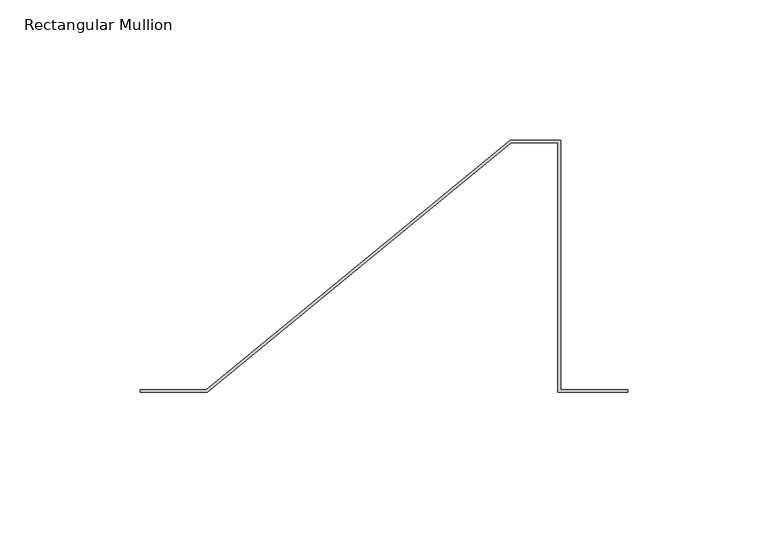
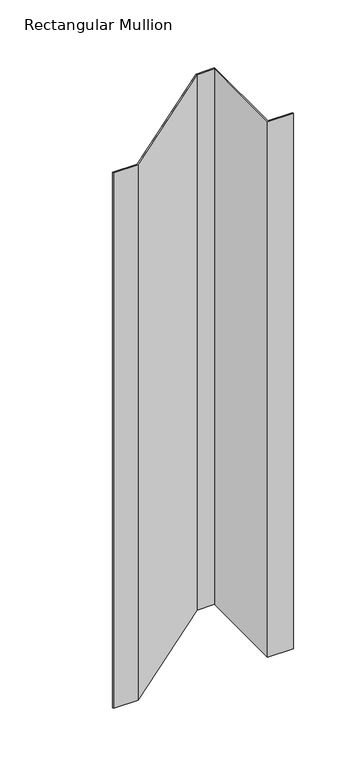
"""IFC4 building model written with IfcOpenShell, lengths in millimetres: member geometry, Rectangular Mullion : CD_NINELINE_Sawtooth Intermediate w Pan."""

from ifc_helpers import new_model, si_unit, frame, origin, place, context, project, spatial, polyline, outline, extrude, source, transform, mapped, element, save


def rectangular_mullion_30baffb3(model_context):
    return source(origin(), model_context, "Body", "SweptSolid", [
        extrude(outline(polyline([(58.5, 0.0), (58.5, 89.0), (41.9195723, 89.0), (-66.5, 0.0), (-90.5, 0.0), (-90.5, 1.0), (-66.9105594, 1.0), (41.5090129, 90.0), (59.5, 90.0), (59.5, 1.0), (83.5, 1.0), (83.5, 0.0), (58.5, 0.0)])), frame((0.0, 0.0, -547.0), z_axis=(0.0, 0.0, 1.0), x_axis=(1.0, 0.0, 0.0)), (0.0, 0.0, 1.0), 547.0),
    ])


if __name__ == "__main__":
    model = new_model("IFC4")
    model_context = context("Model", 3, world=origin())
    ifc_project = project(units=[si_unit("LENGTHUNIT", "METRE", prefix="MILLI")], contexts=[model_context])
    site = spatial("IfcSite", under=ifc_project)
    building = spatial("IfcBuilding", under=site)
    placement = place(None, origin())
    rectangular_mullion_shape = rectangular_mullion_30baffb3(model_context)
    element("IfcMember", 1, ObjectType="Rectangular Mullion : CD_NINELINE_Sawtooth Intermediate w Pan", at=placement, inside=building, context=model_context, shape_type="MappedRepresentation", body=[
        mapped(rectangular_mullion_shape, transform((0.0, 0.0, 0.0), x_axis=(1.0, 0.0, 0.0), y_axis=(0.0, 1.0, 0.0), z_axis=(0.0, 0.0, 1.0))),
    ])
    save(model, "model.ifc")
